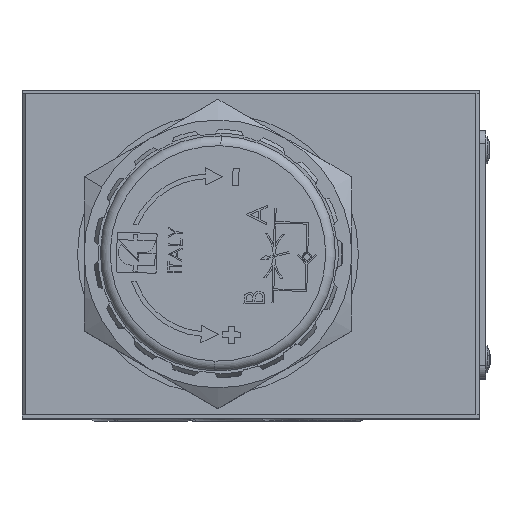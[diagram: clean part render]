
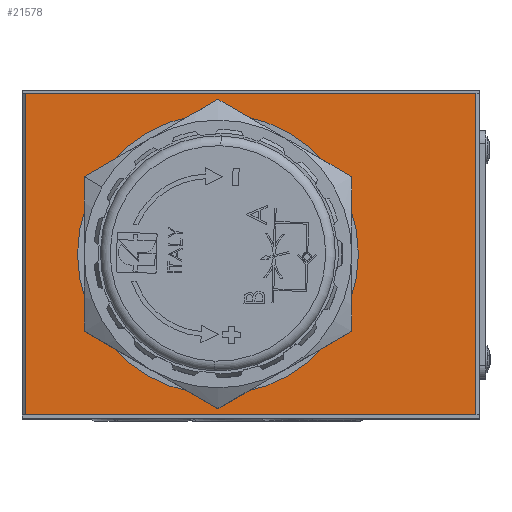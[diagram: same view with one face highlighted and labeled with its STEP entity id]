
A CAD part, top view. The second image highlights one B-rep face of the part: STEP entity #21578.
In plain terms, the highlighted planar face has unit normal (0, 0, 1) as drawn and (0, 0, -1) by its records, which use the part's own axes.
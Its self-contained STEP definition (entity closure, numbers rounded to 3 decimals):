
#227 = CARTESIAN_POINT ( 'NONE',  ( 34.5, 24.6, -67.5 ) ) ;
#699 = EDGE_CURVE ( 'NONE', #84485, #9585, #36786, .T. ) ;
#928 = ORIENTED_EDGE ( 'NONE', *, *, #104495, .T. ) ;
#2958 = VECTOR ( 'NONE', #31189, 1000. ) ;
#9279 = DIRECTION ( 'NONE',  ( 1., 0., 0. ) ) ;
#9585 = VERTEX_POINT ( 'NONE', #71306 ) ;
#10299 = CARTESIAN_POINT ( 'NONE',  ( 34.5, -24.6, -67.5 ) ) ;
#10372 = DIRECTION ( 'NONE',  ( 1., 0., 0. ) ) ;
#13393 = CARTESIAN_POINT ( 'NONE',  ( -34.5, -25.1, -67.5 ) ) ;
#13850 = VERTEX_POINT ( 'NONE', #88117 ) ;
#17609 = FACE_OUTER_BOUND ( 'NONE', #81558, .T. ) ;
#18662 = ORIENTED_EDGE ( 'NONE', *, *, #101756, .T. ) ;
#20312 = VECTOR ( 'NONE', #117327, 1000. ) ;
#21578 = ADVANCED_FACE ( 'NONE', ( #27729, #17609 ), #27868, .F. ) ;
#25602 = VECTOR ( 'NONE', #117575, 1000. ) ;
#27729 = FACE_BOUND ( 'NONE', #44680, .T. ) ;
#27868 = PLANE ( 'NONE',  #95121 ) ;
#28203 = CARTESIAN_POINT ( 'NONE',  ( -34.5, 24.6, -67.5 ) ) ;
#30226 = CARTESIAN_POINT ( 'NONE',  ( -16.5, 0., -67.5 ) ) ;
#30314 = EDGE_CURVE ( 'NONE', #13850, #43926, #50488, .T. ) ;
#31189 = DIRECTION ( 'NONE',  ( 0., 1., 0. ) ) ;
#32751 = ORIENTED_EDGE ( 'NONE', *, *, #30314, .T. ) ;
#33526 = CARTESIAN_POINT ( 'NONE',  ( 34.5, -25.1, -67.5 ) ) ;
#34533 = VECTOR ( 'NONE', #90234, 1000. ) ;
#35056 = AXIS2_PLACEMENT_3D ( 'NONE', #117858, #53914, #10372 ) ;
#36786 = CIRCLE ( 'NONE', #35056, 21.5 ) ;
#41636 = LINE ( 'NONE', #88641, #34533 ) ;
#43926 = VERTEX_POINT ( 'NONE', #28203 ) ;
#43975 = ORIENTED_EDGE ( 'NONE', *, *, #45350, .T. ) ;
#44680 = EDGE_LOOP ( 'NONE', ( #89401, #60214 ) ) ;
#45350 = EDGE_CURVE ( 'NONE', #71117, #74910, #63044, .T. ) ;
#50488 = LINE ( 'NONE', #13393, #2958 ) ;
#53914 = DIRECTION ( 'NONE',  ( 0., 0., 1. ) ) ;
#56412 = CARTESIAN_POINT ( 'NONE',  ( -35., -25.1, -67.5 ) ) ;
#60214 = ORIENTED_EDGE ( 'NONE', *, *, #97125, .T. ) ;
#63044 = LINE ( 'NONE', #33526, #25602 ) ;
#63224 = DIRECTION ( 'NONE',  ( 1., 0., 0. ) ) ;
#65256 = CIRCLE ( 'NONE', #80502, 21.5 ) ;
#71117 = VERTEX_POINT ( 'NONE', #227 ) ;
#71306 = CARTESIAN_POINT ( 'NONE',  ( 26.5, 0., -67.5 ) ) ;
#74910 = VERTEX_POINT ( 'NONE', #10299 ) ;
#80502 = AXIS2_PLACEMENT_3D ( 'NONE', #118294, #81776, #63224 ) ;
#80917 = LINE ( 'NONE', #108064, #20312 ) ;
#81558 = EDGE_LOOP ( 'NONE', ( #928, #32751, #18662, #43975 ) ) ;
#81776 = DIRECTION ( 'NONE',  ( 0., 0., 1. ) ) ;
#84485 = VERTEX_POINT ( 'NONE', #30226 ) ;
#88117 = CARTESIAN_POINT ( 'NONE',  ( -34.5, -24.6, -67.5 ) ) ;
#88641 = CARTESIAN_POINT ( 'NONE',  ( 35., -24.6, -67.5 ) ) ;
#89401 = ORIENTED_EDGE ( 'NONE', *, *, #699, .T. ) ;
#90234 = DIRECTION ( 'NONE',  ( -1., 0., 0. ) ) ;
#92618 = DIRECTION ( 'NONE',  ( 0., 0., 1. ) ) ;
#95121 = AXIS2_PLACEMENT_3D ( 'NONE', #56412, #92618, #9279 ) ;
#97125 = EDGE_CURVE ( 'NONE', #9585, #84485, #65256, .T. ) ;
#101756 = EDGE_CURVE ( 'NONE', #43926, #71117, #80917, .T. ) ;
#104495 = EDGE_CURVE ( 'NONE', #74910, #13850, #41636, .T. ) ;
#108064 = CARTESIAN_POINT ( 'NONE',  ( -35., 24.6, -67.5 ) ) ;
#117327 = DIRECTION ( 'NONE',  ( 1., 0., 0. ) ) ;
#117575 = DIRECTION ( 'NONE',  ( 0., -1., 0. ) ) ;
#117858 = CARTESIAN_POINT ( 'NONE',  ( 5., 0., -67.5 ) ) ;
#118294 = CARTESIAN_POINT ( 'NONE',  ( 5., 0., -67.5 ) ) ;
